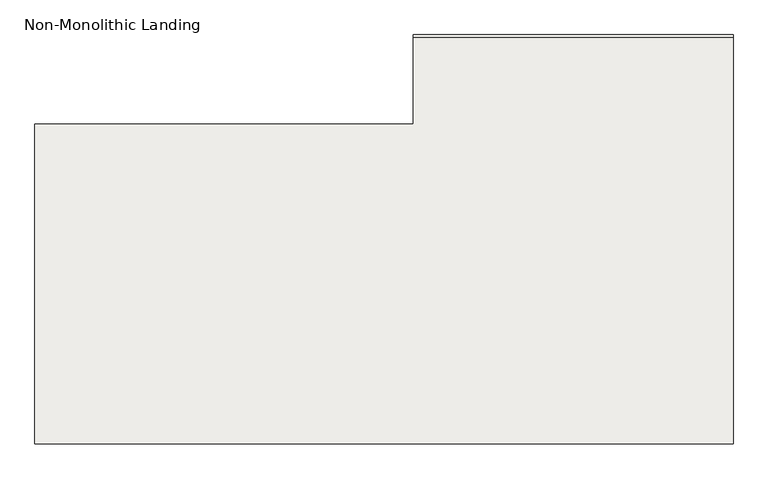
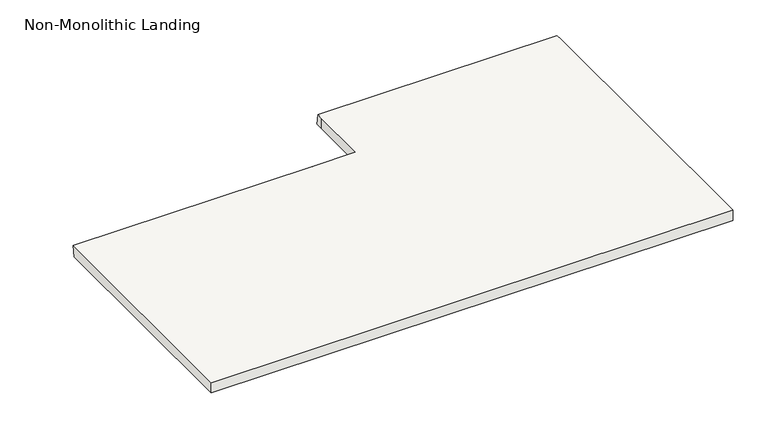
"""IFC4 building model written with IfcOpenShell, lengths in millimetres: slab geometry, Non-Monolithic Landing."""

from ifc_helpers import new_model, si_unit, origin, place, context, project, spatial, faceted_brep, source, transform, mapped, element, save


def non_monolithic_landing_2b803b3b(model_context):
    return source(origin(), model_context, "Body", "Brep", [
        faceted_brep([(54249.1173382, -22290.7006057, 1900.0), (54249.1173382, -23390.7006057, 1900.0), (56649.1173382, -23390.7006057, 1900.0), (56649.1173382, -22015.7006057, 1900.0), (56649.1173382, -21990.7006057, 1900.0), (55549.1173382, -21990.7006057, 1900.0), (55549.1173382, -22015.7006057, 1900.0), (55549.1173382, -22290.7006057, 1900.0), (55349.1173382, -22290.7006057, 1900.0), (56649.1173382, -23390.7006057, 1850.0), (54249.1173382, -23390.7006057, 1850.0), (54249.1173382, -22297.9374478, 1850.0), (55349.1173382, -22297.9374478, 1850.0), (55349.1173382, -22290.7006057, 1850.0), (55549.1173382, -22290.7006057, 1850.0), (55549.1173382, -22015.7006057, 1850.0), (55549.1173382, -21983.4637636, 1850.0), (56649.1173382, -21983.4637636, 1850.0), (56649.1173382, -22015.7006057, 1850.0)], [[[0, 1, 2, 3, 4, 5, 6, 7, 8]], [[9, 10, 11, 12, 13, 14, 15, 16, 17, 18]], [[1, 0, 11, 10]], [[2, 1, 10, 9]], [[4, 3, 18, 17]], [[6, 5, 16, 15]], [[7, 6, 15, 14]], [[4, 17, 16, 5]], [[3, 2, 9, 18]], [[8, 7, 14, 13]], [[12, 8, 13]], [[8, 12, 11, 0]]]),
    ])


if __name__ == "__main__":
    model = new_model("IFC4")
    model_context = context("Model", 3, world=origin())
    ifc_project = project(units=[si_unit("LENGTHUNIT", "METRE", prefix="MILLI")], contexts=[model_context])
    site = spatial("IfcSite", under=ifc_project)
    building = spatial("IfcBuilding", under=site)
    placement = place(None, origin())
    non_monolithic_landing_shape = non_monolithic_landing_2b803b3b(model_context)
    element("IfcSlab", 1, ObjectType="Non-Monolithic Landing", at=placement, inside=building, context=model_context, shape_type="MappedRepresentation", body=[
        mapped(non_monolithic_landing_shape, transform((0.0, 0.0, 0.0), x_axis=(1.0, 0.0, 0.0), y_axis=(0.0, 1.0, 0.0), z_axis=(0.0, 0.0, 1.0))),
    ])
    save(model, "model.ifc")
